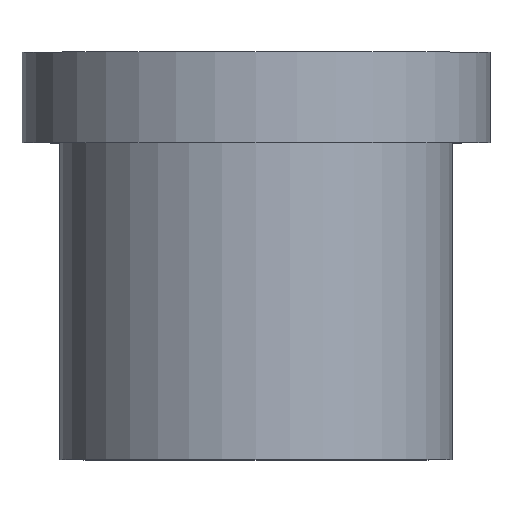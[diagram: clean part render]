
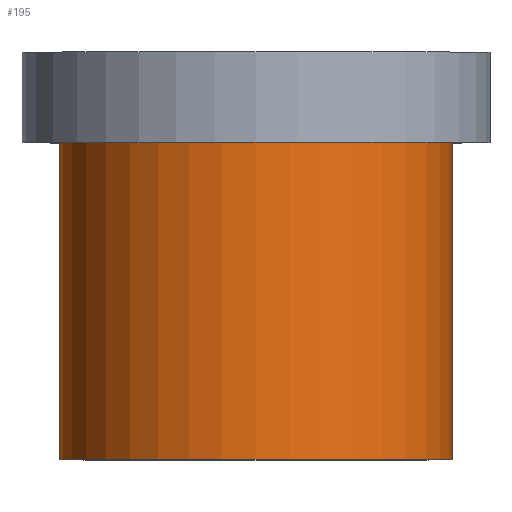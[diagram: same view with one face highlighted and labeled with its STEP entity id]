
A CAD part, top view. The second image highlights one B-rep face of the part: STEP entity #195.
In plain terms, the highlighted cylindrical face has radius 13 mm (diameter 26 mm), a full revolution.
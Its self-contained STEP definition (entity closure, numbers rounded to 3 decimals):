
#32=ORIENTED_EDGE('',*,*,#50,.T.);
#33=ORIENTED_EDGE('',*,*,#49,.F.);
#49=EDGE_CURVE('',#59,#59,#69,.T.);
#50=EDGE_CURVE('',#60,#60,#70,.T.);
#59=VERTEX_POINT('',#280);
#60=VERTEX_POINT('',#283);
#69=CIRCLE('',#213,13.);
#70=CIRCLE('',#215,13.);
#82=EDGE_LOOP('',(#32));
#83=EDGE_LOOP('',(#33));
#102=FACE_BOUND('',#82,.T.);
#103=FACE_BOUND('',#83,.T.);
#117=CYLINDRICAL_SURFACE('',#214,13.);
#195=ADVANCED_FACE('',(#102,#103),#117,.T.);
#213=AXIS2_PLACEMENT_3D('',#279,#241,#242);
#214=AXIS2_PLACEMENT_3D('',#281,#243,#244);
#215=AXIS2_PLACEMENT_3D('',#282,#245,#246);
#241=DIRECTION('',(0.,-1.,0.));
#242=DIRECTION('',(0.,0.,-1.));
#243=DIRECTION('',(0.,-1.,0.));
#244=DIRECTION('',(0.,0.,-1.));
#245=DIRECTION('',(0.,-1.,0.));
#246=DIRECTION('',(0.,0.,-1.));
#279=CARTESIAN_POINT('',(0.,0.,0.));
#280=CARTESIAN_POINT('',(0.,0.,-13.));
#281=CARTESIAN_POINT('',(0.,0.,0.));
#282=CARTESIAN_POINT('',(0.,21.,0.));
#283=CARTESIAN_POINT('',(0.,21.,-13.));
